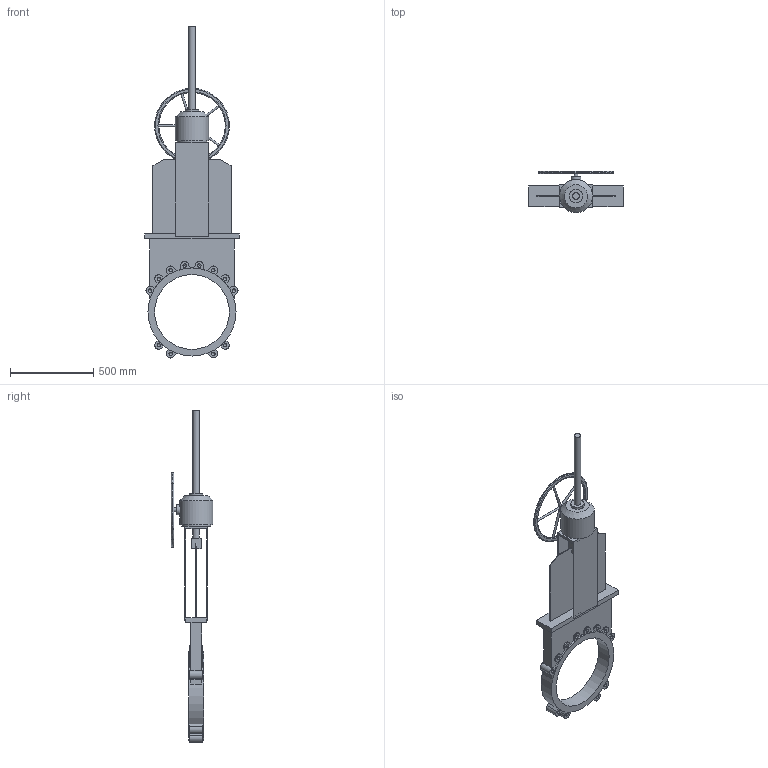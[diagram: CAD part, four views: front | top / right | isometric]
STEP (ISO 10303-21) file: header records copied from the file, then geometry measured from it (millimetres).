
FILE_DESCRIPTION(('STEP AP203'), '1');
FILE_NAME('Çàäâèæêà øèáåðíàÿ K21GV DN450 ðåäóêòîð+âûäâèæíîé øïèíäåëü', '', ('UNSPECIFIED'), ('UNSPECIFIED'), 'ASCON STEP Converter 1.6', 'ASCON Math Kernel', '');
FILE_SCHEMA(('CONFIG_CONTROL_DESIGN'));
Length unit declared in the file: millimetre
Bounding box: 570 x 250 x 1996.68 mm (x, y, z)
Volume: 25701726 mm3; surface area: 2145421.5 mm2
Topology: 1 solids, 1 shells, 212 faces, 582 edges, 373 vertices
Faces by surface type: plane 116, cylinder 63, cone 25, torus 8
Full cylindrical faces by diameter (mm): 12 x5, 20.752 x24, 24 x1, 40 x2, 60 x1, 80 x1, 175 x1, 200 x1, 450 x2, 530 x1
Entity records: 10285 total; most frequent: CARTESIAN_POINT 3542, DIRECTION 1048, ORIENTED_EDGE 974, EDGE_CURVE 487, AXIS2_PLACEMENT_3D 391, VERTEX_POINT 347, EDGE_LOOP 297, LINE 266
